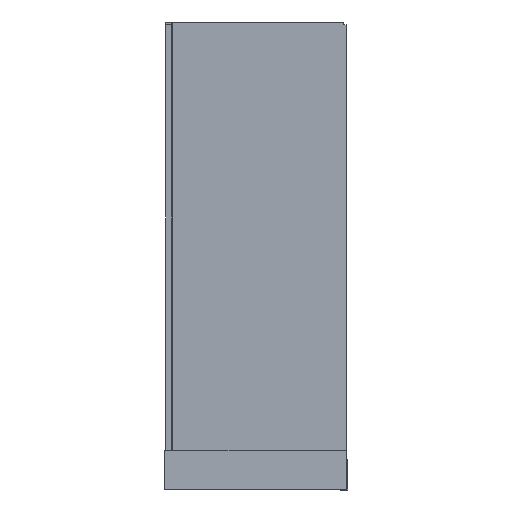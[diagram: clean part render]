
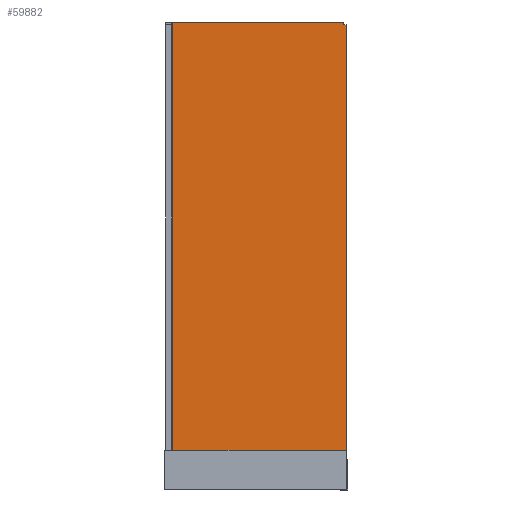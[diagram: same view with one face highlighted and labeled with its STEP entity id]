
A CAD part, left-side view. The second image highlights one B-rep face of the part: STEP entity #59882.
In plain terms, the highlighted free-form (B-spline) face has degree [1, 1] with [2, 2] control points.
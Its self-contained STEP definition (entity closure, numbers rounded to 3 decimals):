
#59794=CARTESIAN_POINT('',(-998.527,-789.402,173.92));
#59795=VERTEX_POINT('',#59794);
#59803=CARTESIAN_POINT('',(-998.527,-801.902,173.92));
#59804=VERTEX_POINT('',#59803);
#59811=CARTESIAN_POINT('',(-998.527,-801.902,173.92));
#59812=DIRECTION('',(0.0,1.0,0.0));
#59813=VECTOR('',#59812,12.5);
#59814=LINE('',#59811,#59813);
#59815=EDGE_CURVE('',#59804,#59795,#59814,.T.);
#59820=CARTESIAN_POINT('',(-998.527,-35.322,2063.14));
#59821=CARTESIAN_POINT('',(-998.527,-801.982,2063.14));
#59822=CARTESIAN_POINT('',(-998.527,-35.322,162.98));
#59823=CARTESIAN_POINT('',(-998.527,-801.982,162.98));
#59824=B_SPLINE_SURFACE_WITH_KNOTS('',1,1,((#59820,#59822),(#59821,#59823)),.UNSPECIFIED.,.F.,.F.,.U.,(2,2),(2,2),(82.959,849.619),(73.049,1973.209),.UNSPECIFIED.);
#59825=CARTESIAN_POINT('',(-998.527,-789.402,163.06));
#59826=VERTEX_POINT('',#59825);
#59827=CARTESIAN_POINT('',(-998.527,-789.402,173.92));
#59828=DIRECTION('',(0.0,0.0,-1.0));
#59829=VECTOR('',#59828,10.86);
#59830=LINE('',#59827,#59829);
#59831=EDGE_CURVE('',#59795,#59826,#59830,.T.);
#59832=ORIENTED_EDGE('',*,*,#59831,.F.);
#59833=ORIENTED_EDGE('',*,*,#59815,.F.);
#59834=CARTESIAN_POINT('',(-998.527,-801.902,2051.92));
#59835=VERTEX_POINT('',#59834);
#59836=CARTESIAN_POINT('',(-998.527,-801.902,2051.92));
#59837=DIRECTION('',(0.0,0.0,-1.0));
#59838=VECTOR('',#59837,1878.);
#59839=LINE('',#59836,#59838);
#59840=EDGE_CURVE('',#59835,#59804,#59839,.T.);
#59841=ORIENTED_EDGE('',*,*,#59840,.F.);
#59842=CARTESIAN_POINT('',(-998.527,-789.402,2051.92));
#59843=VERTEX_POINT('',#59842);
#59844=CARTESIAN_POINT('',(-998.527,-789.402,2051.92));
#59845=DIRECTION('',(0.0,-1.0,0.0));
#59846=VECTOR('',#59845,12.5);
#59847=LINE('',#59844,#59846);
#59848=EDGE_CURVE('',#59843,#59835,#59847,.T.);
#59849=ORIENTED_EDGE('',*,*,#59848,.F.);
#59850=CARTESIAN_POINT('',(-998.527,-789.402,2063.06));
#59851=VERTEX_POINT('',#59850);
#59852=CARTESIAN_POINT('',(-998.527,-789.402,2063.06));
#59853=DIRECTION('',(0.0,0.0,-1.0));
#59854=VECTOR('',#59853,11.14);
#59855=LINE('',#59852,#59854);
#59856=EDGE_CURVE('',#59851,#59843,#59855,.T.);
#59857=ORIENTED_EDGE('',*,*,#59856,.F.);
#59858=CARTESIAN_POINT('',(-998.527,-35.402,2063.06));
#59859=VERTEX_POINT('',#59858);
#59860=CARTESIAN_POINT('',(-998.527,-35.402,2063.06));
#59861=DIRECTION('',(0.0,-1.0,0.0));
#59862=VECTOR('',#59861,754.);
#59863=LINE('',#59860,#59862);
#59864=EDGE_CURVE('',#59859,#59851,#59863,.T.);
#59865=ORIENTED_EDGE('',*,*,#59864,.F.);
#59866=CARTESIAN_POINT('',(-998.527,-35.402,163.06));
#59867=VERTEX_POINT('',#59866);
#59868=CARTESIAN_POINT('',(-998.527,-35.402,163.06));
#59869=DIRECTION('',(0.0,0.0,1.0));
#59870=VECTOR('',#59869,1900.);
#59871=LINE('',#59868,#59870);
#59872=EDGE_CURVE('',#59867,#59859,#59871,.T.);
#59873=ORIENTED_EDGE('',*,*,#59872,.F.);
#59874=CARTESIAN_POINT('',(-998.527,-789.402,163.06));
#59875=DIRECTION('',(0.0,1.0,0.0));
#59876=VECTOR('',#59875,754.);
#59877=LINE('',#59874,#59876);
#59878=EDGE_CURVE('',#59826,#59867,#59877,.T.);
#59879=ORIENTED_EDGE('',*,*,#59878,.F.);
#59880=EDGE_LOOP('',(#59832,#59833,#59841,#59849,#59857,#59865,#59873,#59879));
#59881=FACE_OUTER_BOUND('',#59880,.T.);
#59882=ADVANCED_FACE('',(#59881),#59824,.F.);
